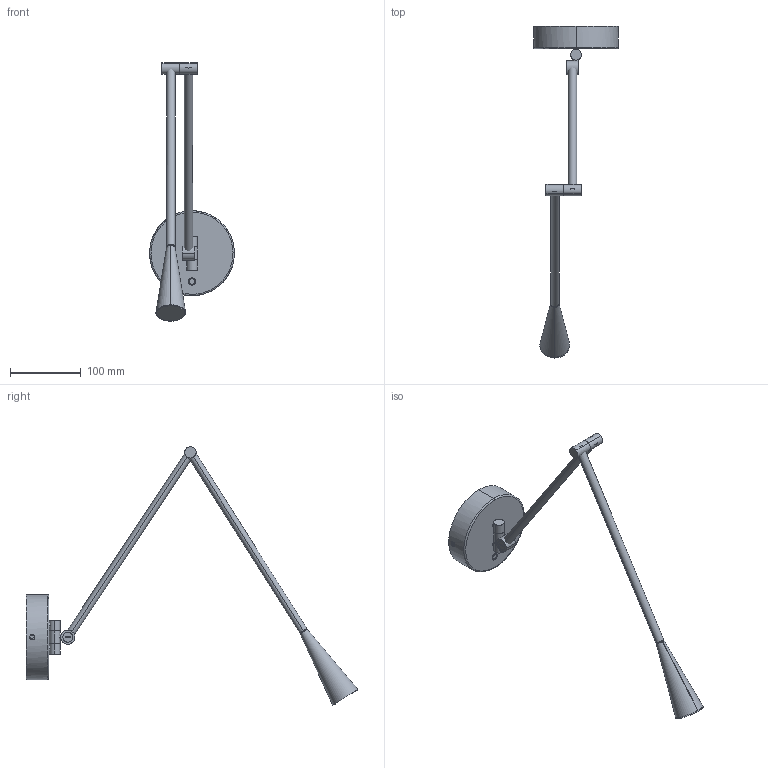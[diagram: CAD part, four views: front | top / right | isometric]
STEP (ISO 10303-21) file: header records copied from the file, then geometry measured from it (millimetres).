
FILE_DESCRIPTION(/* description */ (''),/* implementation_level */ '2;1');
FILE_NAME(/* name */ 'Snake Wall Lamp',/* time_stamp */ '2025-11-05T15:22:13+01:00',/* author */ (''),/* organization */ (''),/* preprocessor_version */ 'ST-DEVELOPER v16.5',/* originating_system */ 'Rhino 7.38',/* authorisation */ '');
FILE_SCHEMA (('CONFIG_CONTROL_DESIGN'));
Length unit declared in the file: millimetre
Products named in the file (1): Document
Bounding box: 120 x 468.84 x 365.1 mm (x, y, z)
Volume: 463578.9 mm3; surface area: 92530.7 mm2
Topology: 19 solids, 20 shells, 116 faces, 214 edges, 139 vertices
Faces by surface type: plane 62, cylinder 42, bspline 12
Entity records: 3000 total; most frequent: CARTESIAN_POINT 1347, ORIENTED_EDGE 417, EDGE_CURVE 209, VERTEX_POINT 137, EDGE_LOOP 125, ADVANCED_FACE 116, FACE_OUTER_BOUND 116, DIRECTION 112
